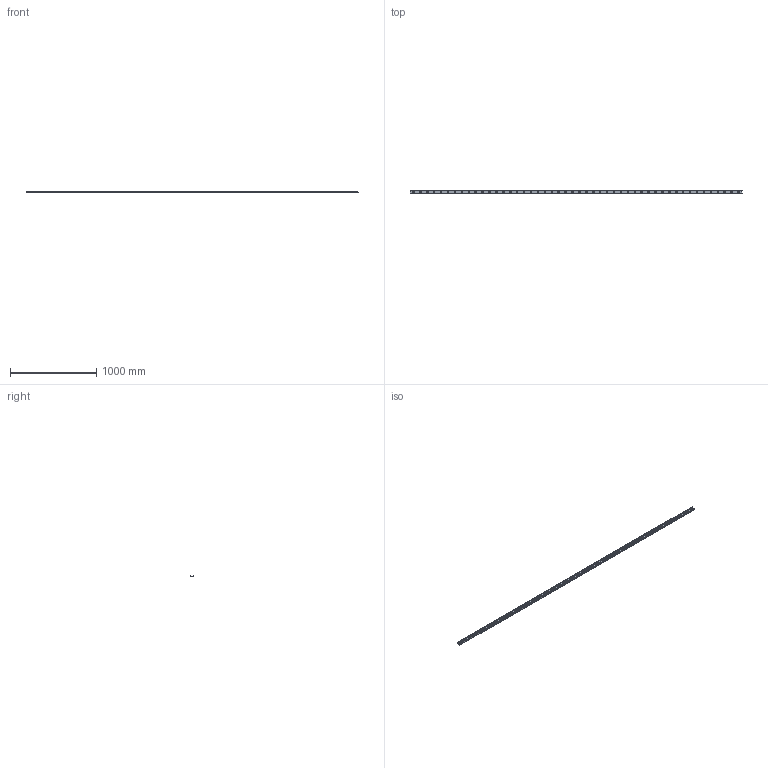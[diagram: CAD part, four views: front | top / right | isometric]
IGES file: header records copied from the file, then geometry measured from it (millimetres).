
Start section: SolidWorks IGES file using analytic representation for surfaces
Global section: file name: C:\Users\IanO\Desktop\43\L1943.ULC43_v2_20180121_IGES\L1943.ULC43-3840.igs; native system: SolidWorks 2017; preprocessor: SolidWorks 2017; author: IanO; date: 190121.085427; units: millimetre
Bounding box: 3840 x 43 x 21 mm (x, y, z)
Surface area: 602005 mm2 (no closed solid volume)
Topology: 0 solids, 0 shells, 266 faces, 7206 edges, 7206 vertices
Faces by surface type: revolution 205, bspline 61
